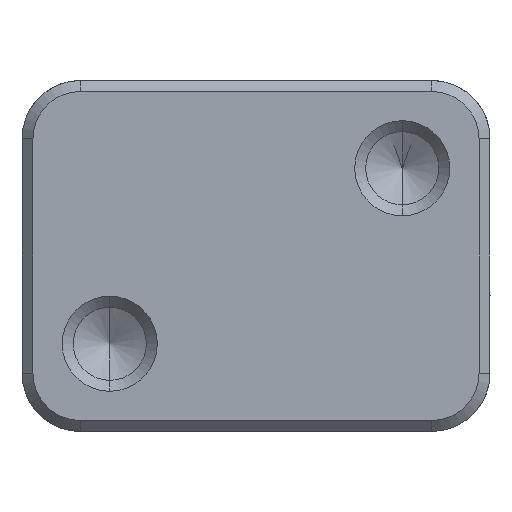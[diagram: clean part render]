
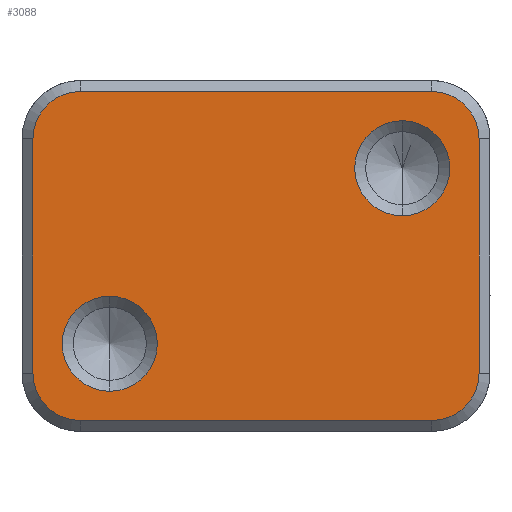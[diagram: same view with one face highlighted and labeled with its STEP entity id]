
A CAD part, front view. The second image highlights one B-rep face of the part: STEP entity #3088.
In plain terms, the highlighted planar face has unit normal (0, -1, 0).
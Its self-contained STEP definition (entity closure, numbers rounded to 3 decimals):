
#26 = EDGE_CURVE ( 'NONE', #2834, #6342, #8611, .T. ) ;
#170 = ORIENTED_EDGE ( 'NONE', *, *, #4138, .T. ) ;
#217 = CARTESIAN_POINT ( 'NONE',  ( -10., 0., -9.256 ) ) ;
#224 = DIRECTION ( 'NONE',  ( 0., -1., 0. ) ) ;
#344 = DIRECTION ( 'NONE',  ( -1., 0., 0. ) ) ;
#371 = EDGE_CURVE ( 'NONE', #11402, #1558, #874, .T. ) ;
#419 = FACE_OUTER_BOUND ( 'NONE', #2200, .T. ) ;
#476 = CARTESIAN_POINT ( 'NONE',  ( -12., 0., 7.995 ) ) ;
#501 = VECTOR ( 'NONE', #10544, 1000. ) ;
#621 = CARTESIAN_POINT ( 'NONE',  ( -12., 0., 11.245 ) ) ;
#874 = LINE ( 'NONE', #12746, #6290 ) ;
#972 = ORIENTED_EDGE ( 'NONE', *, *, #2136, .T. ) ;
#1256 = CARTESIAN_POINT ( 'NONE',  ( -12., 0., -11.256 ) ) ;
#1558 = VERTEX_POINT ( 'NONE', #3253 ) ;
#1741 = AXIS2_PLACEMENT_3D ( 'NONE', #10667, #4541, #4673 ) ;
#1863 = DIRECTION ( 'NONE',  ( 0., 0., -1. ) ) ;
#2059 = DIRECTION ( 'NONE',  ( 0., 1., 0. ) ) ;
#2067 = VERTEX_POINT ( 'NONE', #5797 ) ;
#2136 = EDGE_CURVE ( 'NONE', #6342, #2834, #8840, .T. ) ;
#2200 = EDGE_LOOP ( 'NONE', ( #10362, #9586, #6245, #12779, #10870, #170, #9440, #11279 ) ) ;
#2248 = PLANE ( 'NONE',  #3803 ) ;
#2314 = DIRECTION ( 'NONE',  ( 1., 0., 0. ) ) ;
#2315 = AXIS2_PLACEMENT_3D ( 'NONE', #5746, #12885, #7896 ) ;
#2398 = LINE ( 'NONE', #6327, #501 ) ;
#2441 = CARTESIAN_POINT ( 'NONE',  ( 10., 0., 5.995 ) ) ;
#2474 = VERTEX_POINT ( 'NONE', #1256 ) ;
#2562 = AXIS2_PLACEMENT_3D ( 'NONE', #4764, #3779, #5627 ) ;
#2704 = VERTEX_POINT ( 'NONE', #4031 ) ;
#2769 = CIRCLE ( 'NONE', #8215, 3.25 ) ;
#2821 = EDGE_CURVE ( 'NONE', #10846, #11606, #9224, .T. ) ;
#2834 = VERTEX_POINT ( 'NONE', #7969 ) ;
#3066 = CARTESIAN_POINT ( 'NONE',  ( 10., 0., 9.245 ) ) ;
#3088 = ADVANCED_FACE ( 'NONE', ( #5331, #419, #7297 ), #2248, .T. ) ;
#3140 = DIRECTION ( 'NONE',  ( 0., 1., 0. ) ) ;
#3175 = AXIS2_PLACEMENT_3D ( 'NONE', #476, #3140, #344 ) ;
#3199 = CARTESIAN_POINT ( 'NONE',  ( 12., 0., -11.256 ) ) ;
#3253 = CARTESIAN_POINT ( 'NONE',  ( -15.25, 0., -8.006 ) ) ;
#3326 = EDGE_CURVE ( 'NONE', #11402, #11606, #10316, .T. ) ;
#3779 = DIRECTION ( 'NONE',  ( 0., -1., 0. ) ) ;
#3803 = AXIS2_PLACEMENT_3D ( 'NONE', #4205, #224, #2314 ) ;
#4024 = CARTESIAN_POINT ( 'NONE',  ( -15.25, 0., 7.995 ) ) ;
#4027 = CIRCLE ( 'NONE', #1741, 3.25 ) ;
#4031 = CARTESIAN_POINT ( 'NONE',  ( 15.25, 0., 7.995 ) ) ;
#4138 = EDGE_CURVE ( 'NONE', #2704, #10846, #8852, .T. ) ;
#4145 = EDGE_LOOP ( 'NONE', ( #972, #7841 ) ) ;
#4205 = CARTESIAN_POINT ( 'NONE',  ( -16., 0., -12.006 ) ) ;
#4541 = DIRECTION ( 'NONE',  ( 0., -1., 0. ) ) ;
#4673 = DIRECTION ( 'NONE',  ( 0., 0., 1. ) ) ;
#4764 = CARTESIAN_POINT ( 'NONE',  ( 12., 0., 7.995 ) ) ;
#5039 = DIRECTION ( 'NONE',  ( 1., 0., 0. ) ) ;
#5132 = DIRECTION ( 'NONE',  ( 0., 1., 0. ) ) ;
#5331 = FACE_BOUND ( 'NONE', #4145, .T. ) ;
#5525 = EDGE_CURVE ( 'NONE', #10929, #10227, #12012, .T. ) ;
#5627 = DIRECTION ( 'NONE',  ( 0., 0., 1. ) ) ;
#5693 = AXIS2_PLACEMENT_3D ( 'NONE', #9941, #5132, #9144 ) ;
#5746 = CARTESIAN_POINT ( 'NONE',  ( -10., 0., -6.006 ) ) ;
#5797 = CARTESIAN_POINT ( 'NONE',  ( 15.25, 0., -8.006 ) ) ;
#6025 = CARTESIAN_POINT ( 'NONE',  ( -16., 0., -11.256 ) ) ;
#6149 = EDGE_CURVE ( 'NONE', #2067, #2704, #2398, .T. ) ;
#6245 = ORIENTED_EDGE ( 'NONE', *, *, #9999, .T. ) ;
#6290 = VECTOR ( 'NONE', #11841, 1000. ) ;
#6293 = EDGE_CURVE ( 'NONE', #1558, #2474, #7610, .T. ) ;
#6327 = CARTESIAN_POINT ( 'NONE',  ( 15.25, 0., -12.006 ) ) ;
#6342 = VERTEX_POINT ( 'NONE', #217 ) ;
#6971 = AXIS2_PLACEMENT_3D ( 'NONE', #2441, #10396, #8418 ) ;
#7036 = ORIENTED_EDGE ( 'NONE', *, *, #5525, .T. ) ;
#7037 = CARTESIAN_POINT ( 'NONE',  ( -12., 0., -8.006 ) ) ;
#7297 = FACE_BOUND ( 'NONE', #10670, .T. ) ;
#7610 = CIRCLE ( 'NONE', #8458, 3.25 ) ;
#7841 = ORIENTED_EDGE ( 'NONE', *, *, #26, .T. ) ;
#7896 = DIRECTION ( 'NONE',  ( 0., 0., -1. ) ) ;
#7966 = EDGE_CURVE ( 'NONE', #10227, #10929, #2769, .T. ) ;
#7969 = CARTESIAN_POINT ( 'NONE',  ( -10., 0., -2.756 ) ) ;
#8215 = AXIS2_PLACEMENT_3D ( 'NONE', #10867, #2059, #1863 ) ;
#8418 = DIRECTION ( 'NONE',  ( 0., 0., -1. ) ) ;
#8458 = AXIS2_PLACEMENT_3D ( 'NONE', #7037, #10064, #9079 ) ;
#8611 = CIRCLE ( 'NONE', #2315, 3.25 ) ;
#8756 = VERTEX_POINT ( 'NONE', #3199 ) ;
#8799 = CARTESIAN_POINT ( 'NONE',  ( 12., 0., 11.245 ) ) ;
#8840 = CIRCLE ( 'NONE', #5693, 3.25 ) ;
#8842 = CARTESIAN_POINT ( 'NONE',  ( 10., 0., 2.745 ) ) ;
#8852 = CIRCLE ( 'NONE', #2562, 3.25 ) ;
#9079 = DIRECTION ( 'NONE',  ( 0., 0., 1. ) ) ;
#9111 = EDGE_CURVE ( 'NONE', #8756, #2067, #4027, .T. ) ;
#9144 = DIRECTION ( 'NONE',  ( 0., 0., -1. ) ) ;
#9224 = LINE ( 'NONE', #10154, #11781 ) ;
#9440 = ORIENTED_EDGE ( 'NONE', *, *, #2821, .T. ) ;
#9586 = ORIENTED_EDGE ( 'NONE', *, *, #6293, .T. ) ;
#9843 = LINE ( 'NONE', #6025, #10564 ) ;
#9941 = CARTESIAN_POINT ( 'NONE',  ( -10., 0., -6.006 ) ) ;
#9999 = EDGE_CURVE ( 'NONE', #2474, #8756, #9843, .T. ) ;
#10064 = DIRECTION ( 'NONE',  ( 0., -1., 0. ) ) ;
#10154 = CARTESIAN_POINT ( 'NONE',  ( -16., 0., 11.245 ) ) ;
#10227 = VERTEX_POINT ( 'NONE', #8842 ) ;
#10316 = CIRCLE ( 'NONE', #3175, 3.25 ) ;
#10362 = ORIENTED_EDGE ( 'NONE', *, *, #371, .T. ) ;
#10396 = DIRECTION ( 'NONE',  ( 0., 1., 0. ) ) ;
#10544 = DIRECTION ( 'NONE',  ( 0., 0., 1. ) ) ;
#10564 = VECTOR ( 'NONE', #5039, 1000. ) ;
#10667 = CARTESIAN_POINT ( 'NONE',  ( 12., 0., -8.006 ) ) ;
#10670 = EDGE_LOOP ( 'NONE', ( #11998, #7036 ) ) ;
#10846 = VERTEX_POINT ( 'NONE', #8799 ) ;
#10867 = CARTESIAN_POINT ( 'NONE',  ( 10., 0., 5.995 ) ) ;
#10870 = ORIENTED_EDGE ( 'NONE', *, *, #6149, .T. ) ;
#10929 = VERTEX_POINT ( 'NONE', #3066 ) ;
#11279 = ORIENTED_EDGE ( 'NONE', *, *, #3326, .F. ) ;
#11402 = VERTEX_POINT ( 'NONE', #4024 ) ;
#11606 = VERTEX_POINT ( 'NONE', #621 ) ;
#11781 = VECTOR ( 'NONE', #11919, 1000. ) ;
#11841 = DIRECTION ( 'NONE',  ( 0., 0., -1. ) ) ;
#11919 = DIRECTION ( 'NONE',  ( -1., 0., 0. ) ) ;
#11998 = ORIENTED_EDGE ( 'NONE', *, *, #7966, .T. ) ;
#12012 = CIRCLE ( 'NONE', #6971, 3.25 ) ;
#12746 = CARTESIAN_POINT ( 'NONE',  ( -15.25, 0., -12.006 ) ) ;
#12779 = ORIENTED_EDGE ( 'NONE', *, *, #9111, .T. ) ;
#12885 = DIRECTION ( 'NONE',  ( 0., 1., 0. ) ) ;
